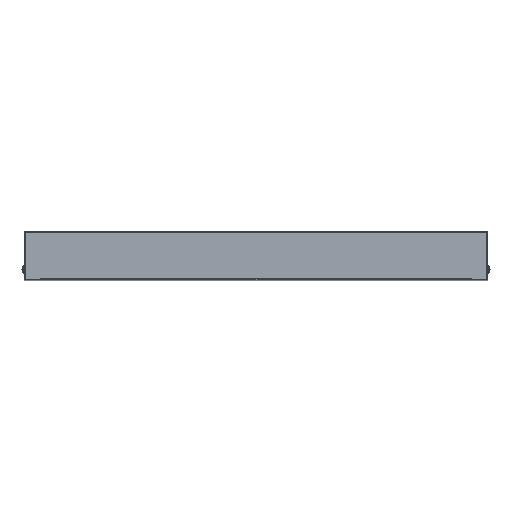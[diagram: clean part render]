
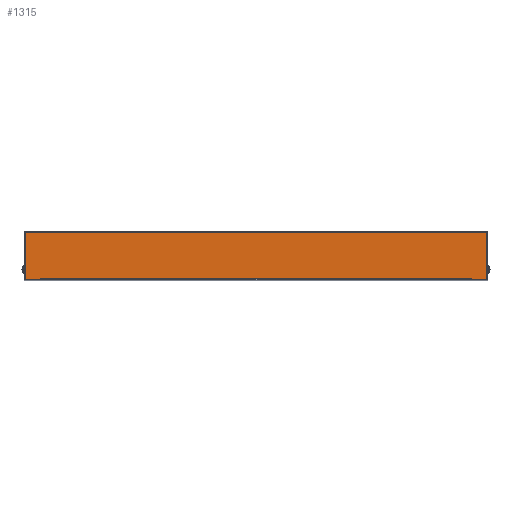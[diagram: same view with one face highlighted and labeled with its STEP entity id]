
A CAD part, top view. The second image highlights one B-rep face of the part: STEP entity #1315.
In plain terms, the highlighted planar face has unit normal (0, 0, 1).
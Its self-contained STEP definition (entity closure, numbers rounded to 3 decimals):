
#36 = CARTESIAN_POINT ( 'NONE',  ( 214., 44., 215. ) ) ;
#90 = CARTESIAN_POINT ( 'NONE',  ( 214., 0., 215. ) ) ;
#212 = VECTOR ( 'NONE', #2764, 1000. ) ;
#225 = ORIENTED_EDGE ( 'NONE', *, *, #2532, .T. ) ;
#260 = CARTESIAN_POINT ( 'NONE',  ( -214., 1., 215. ) ) ;
#261 = DIRECTION ( 'NONE',  ( 1., 0., 0. ) ) ;
#376 = ORIENTED_EDGE ( 'NONE', *, *, #2469, .F. ) ;
#399 = EDGE_CURVE ( 'NONE', #610, #672, #1955, .T. ) ;
#423 = CARTESIAN_POINT ( 'NONE',  ( 214., 44., 215. ) ) ;
#439 = VERTEX_POINT ( 'NONE', #1729 ) ;
#451 = ORIENTED_EDGE ( 'NONE', *, *, #399, .T. ) ;
#452 = VECTOR ( 'NONE', #3300, 1000. ) ;
#481 = VECTOR ( 'NONE', #1680, 1000. ) ;
#610 = VERTEX_POINT ( 'NONE', #90 ) ;
#619 = ORIENTED_EDGE ( 'NONE', *, *, #3250, .T. ) ;
#656 = EDGE_LOOP ( 'NONE', ( #3251, #2855, #225, #619, #3339, #376, #3532, #451 ) ) ;
#671 = VECTOR ( 'NONE', #1568, 1000. ) ;
#672 = VERTEX_POINT ( 'NONE', #423 ) ;
#787 = VECTOR ( 'NONE', #3372, 1000. ) ;
#867 = DIRECTION ( 'NONE',  ( 1., 0., 0. ) ) ;
#879 = VERTEX_POINT ( 'NONE', #3271 ) ;
#963 = EDGE_CURVE ( 'NONE', #3572, #610, #2252, .T. ) ;
#1155 = CARTESIAN_POINT ( 'NONE',  ( 0., 44., 215. ) ) ;
#1272 = LINE ( 'NONE', #2984, #671 ) ;
#1315 = ADVANCED_FACE ( 'NONE', ( #1985 ), #2817, .T. ) ;
#1345 = EDGE_CURVE ( 'NONE', #439, #3570, #3353, .T. ) ;
#1415 = EDGE_CURVE ( 'NONE', #672, #2127, #1648, .T. ) ;
#1526 = CARTESIAN_POINT ( 'NONE',  ( 199.998, 0., 215. ) ) ;
#1559 = LINE ( 'NONE', #2958, #3299 ) ;
#1568 = DIRECTION ( 'NONE',  ( 0., -1., 0. ) ) ;
#1575 = DIRECTION ( 'NONE',  ( 0., 1., 0. ) ) ;
#1648 = LINE ( 'NONE', #2490, #212 ) ;
#1651 = CARTESIAN_POINT ( 'NONE',  ( -215., 0., 215. ) ) ;
#1680 = DIRECTION ( 'NONE',  ( 0., 1., 0. ) ) ;
#1729 = CARTESIAN_POINT ( 'NONE',  ( -199.998, 1., 215. ) ) ;
#1904 = AXIS2_PLACEMENT_3D ( 'NONE', #1155, #3031, #3593 ) ;
#1929 = LINE ( 'NONE', #2765, #2322 ) ;
#1955 = LINE ( 'NONE', #36, #481 ) ;
#1985 = FACE_OUTER_BOUND ( 'NONE', #656, .T. ) ;
#2074 = EDGE_CURVE ( 'NONE', #2127, #879, #1272, .T. ) ;
#2127 = VERTEX_POINT ( 'NONE', #3221 ) ;
#2195 = LINE ( 'NONE', #2669, #452 ) ;
#2252 = LINE ( 'NONE', #1651, #2293 ) ;
#2286 = CARTESIAN_POINT ( 'NONE',  ( 199.998, 1., 215. ) ) ;
#2293 = VECTOR ( 'NONE', #867, 1000. ) ;
#2322 = VECTOR ( 'NONE', #261, 1000. ) ;
#2469 = EDGE_CURVE ( 'NONE', #3572, #3570, #2195, .T. ) ;
#2490 = CARTESIAN_POINT ( 'NONE',  ( -215., 44., 215. ) ) ;
#2532 = EDGE_CURVE ( 'NONE', #879, #3006, #1929, .T. ) ;
#2548 = CARTESIAN_POINT ( 'NONE',  ( -199.998, 0., 215. ) ) ;
#2669 = CARTESIAN_POINT ( 'NONE',  ( 199.998, 0., 215. ) ) ;
#2764 = DIRECTION ( 'NONE',  ( -1., 0., 0. ) ) ;
#2765 = CARTESIAN_POINT ( 'NONE',  ( -215., 0., 215. ) ) ;
#2817 = PLANE ( 'NONE',  #1904 ) ;
#2855 = ORIENTED_EDGE ( 'NONE', *, *, #2074, .T. ) ;
#2958 = CARTESIAN_POINT ( 'NONE',  ( -199.998, 0., 215. ) ) ;
#2984 = CARTESIAN_POINT ( 'NONE',  ( -214., 44., 215. ) ) ;
#3006 = VERTEX_POINT ( 'NONE', #2548 ) ;
#3031 = DIRECTION ( 'NONE',  ( 0., 0., 1. ) ) ;
#3221 = CARTESIAN_POINT ( 'NONE',  ( -214., 44., 215. ) ) ;
#3250 = EDGE_CURVE ( 'NONE', #3006, #439, #1559, .T. ) ;
#3251 = ORIENTED_EDGE ( 'NONE', *, *, #1415, .T. ) ;
#3271 = CARTESIAN_POINT ( 'NONE',  ( -214., 0., 215. ) ) ;
#3299 = VECTOR ( 'NONE', #1575, 1000. ) ;
#3300 = DIRECTION ( 'NONE',  ( 0., 1., 0. ) ) ;
#3339 = ORIENTED_EDGE ( 'NONE', *, *, #1345, .T. ) ;
#3353 = LINE ( 'NONE', #260, #787 ) ;
#3372 = DIRECTION ( 'NONE',  ( 1., 0., 0. ) ) ;
#3532 = ORIENTED_EDGE ( 'NONE', *, *, #963, .T. ) ;
#3570 = VERTEX_POINT ( 'NONE', #2286 ) ;
#3572 = VERTEX_POINT ( 'NONE', #1526 ) ;
#3593 = DIRECTION ( 'NONE',  ( 0., -1., 0. ) ) ;
